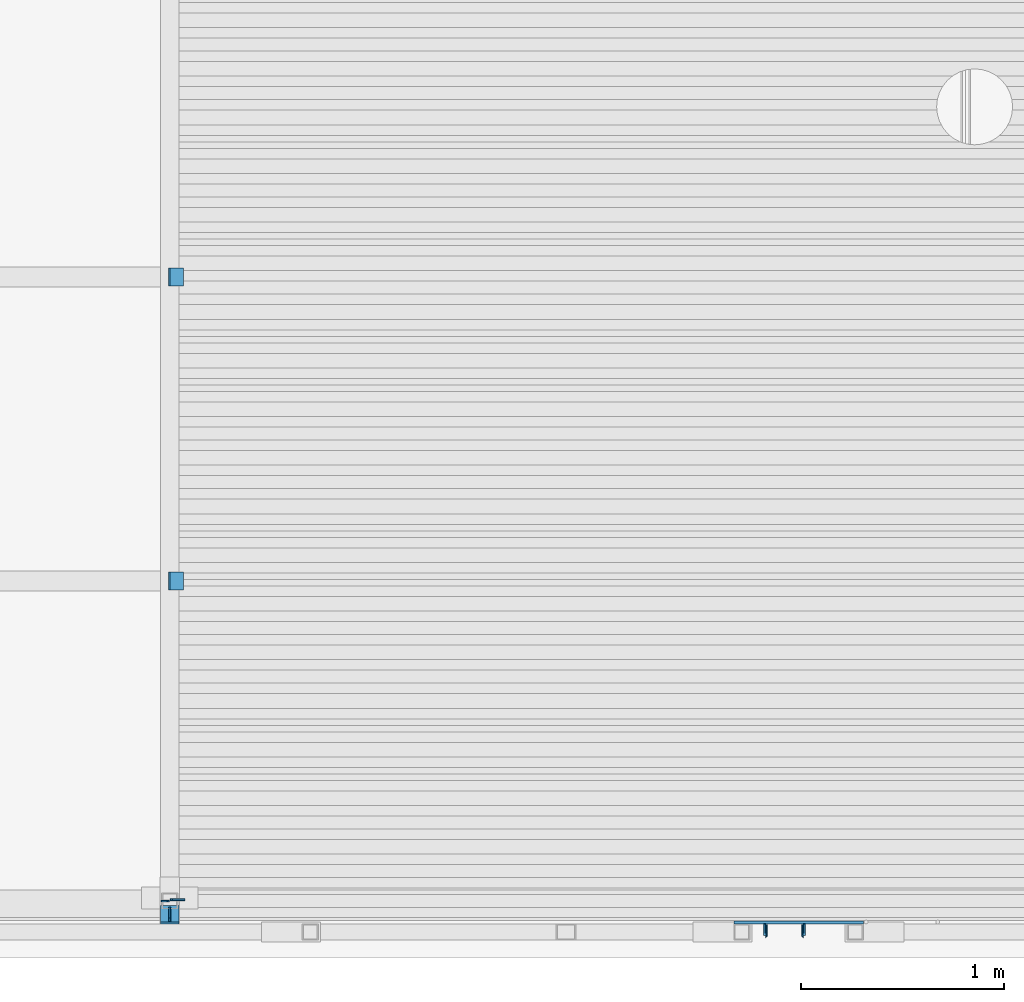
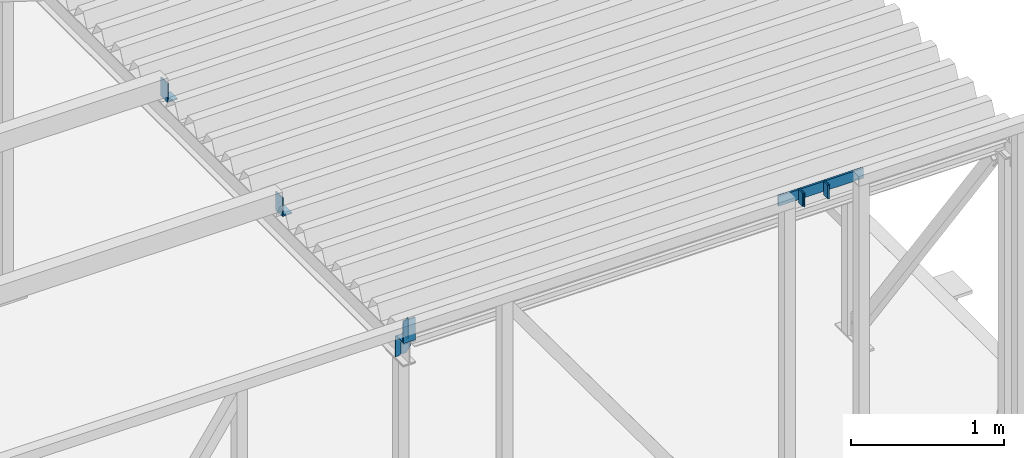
# One storey, part 19 of 30: 11 beams.
"""IFC2X3 building model written with IfcOpenShell, lengths in millimetres."""

import ifcopenshell
import ifcopenshell.guid

model = None  # the IFC model being written
_history = None  # IfcOwnerHistory: only IFC2X3 demands one
_inside = {}  # id of a spatial element -> (the spatial element, [elements in it])
_under = {}  # id of a project, library or spatial element -> (it, [spatial elements below it])
_declared = {}  # id of a project -> (the project, [libraries it declares])
_typed = {}  # id of a type object -> (the type object, [elements of that type])
_made_of = {}  # id of a material, layer set ... -> (it, [elements and type objects made of it])


def new_model(schema):
    """Start an empty IFC model of exactly this schema.

    Asked for "IFC4X3", IfcOpenShell would pick the latest addendum, in which some entities
    have other attributes; the version numbers below select the first issue.
    IFC2X3 requires an IfcOwnerHistory on every rooted entity: one is made here for all.
    """
    global model, _history
    if schema == "IFC4X3":
        model = ifcopenshell.file(schema_version=(4, 3, 0, 0))
    else:
        model = ifcopenshell.file(schema=schema)
    _inside.clear()
    _under.clear()
    _declared.clear()
    _typed.clear()
    _made_of.clear()
    _history = None
    if model.schema == "IFC2X3":
        org = make("IfcOrganization", Name="unknown")
        user = make(
            "IfcPersonAndOrganization",
            ThePerson=make("IfcPerson", FamilyName="unknown"),
            TheOrganization=org,
        )
        app = make(
            "IfcApplication",
            ApplicationDeveloper=org,
            Version="unknown",
            ApplicationFullName="unknown",
            ApplicationIdentifier="unknown",
        )
        _history = make(
            "IfcOwnerHistory",
            OwningUser=user,
            OwningApplication=app,
            ChangeAction="ADDED",
            CreationDate=0,
        )
    return model


def make(cls, **values):
    """One entity of the class cls with the attributes given. An attribute that is None is left unset."""
    return model.create_entity(
        cls, **{name: value for name, value in values.items() if value is not None}
    )


def entity(cls, *values):
    """Any entity or typed value of the class cls, its attributes in the order of the schema. None: left unset."""
    e = model.create_entity(cls)
    for i, value in enumerate(values):
        if value is not None:
            e[i] = value
    return e


def rooted(cls, **values):
    """An entity with a GlobalId (a new one), such as an element, a storey or a relation."""
    return make(cls, GlobalId=ifcopenshell.guid.new(), OwnerHistory=_history, **values)


def si_unit(unit_type, name, prefix=None):
    """IfcSIUnit, for example si_unit("LENGTHUNIT", "METRE", prefix="MILLI")."""
    return make("IfcSIUnit", UnitType=unit_type, Prefix=prefix, Name=name)


def converted_unit(unit_type, name, factor, base, dimensions=None, offset=None):
    """IfcConversionBasedUnit, such as the inch: factor (a typed value) times the base unit."""
    return make(
        "IfcConversionBasedUnit"
        if offset is None
        else "IfcConversionBasedUnitWithOffset",
        ConversionOffset=offset,
        Dimensions=None
        if dimensions is None
        else entity("IfcDimensionalExponents", *dimensions),
        UnitType=unit_type,
        Name=name,
        ConversionFactor=make(
            "IfcMeasureWithUnit", ValueComponent=factor, UnitComponent=base
        ),
    )


def derived_unit(unit_type, elements):
    """IfcDerivedUnit: a product of units, each with its exponent."""
    return make(
        "IfcDerivedUnit",
        Elements=[
            make("IfcDerivedUnitElement", Unit=unit, Exponent=power)
            for unit, power in elements
        ],
        UnitType=unit_type,
    )


def assignment(units):
    """IfcUnitAssignment: the units of a project."""
    return None if units is None else make("IfcUnitAssignment", Units=units)


def point(xyz):
    """IfcCartesianPoint."""
    return None if xyz is None else make("IfcCartesianPoint", Coordinates=xyz)


def direction(xyz):
    """IfcDirection."""
    return None if xyz is None else make("IfcDirection", DirectionRatios=xyz)


def frame(location, z_axis=None, x_axis=None):
    """IfcAxis2Placement3D, a coordinate frame: its origin and axes. An axis left out is left unset."""
    return make(
        "IfcAxis2Placement3D",
        Location=point(location),
        Axis=direction(z_axis),
        RefDirection=direction(x_axis),
    )


def origin_with_axes():
    """The frame at (0, 0, 0) with the z axis (0, 0, 1) and the x axis (1, 0, 0) written out."""
    return frame((0.0, 0.0, 0.0), z_axis=(0.0, 0.0, 1.0), x_axis=(1.0, 0.0, 0.0))


def place(relative_to, where):
    """IfcLocalPlacement: puts the frame where relative to a parent placement (None: the world)."""
    return make(
        "IfcLocalPlacement", PlacementRelTo=relative_to, RelativePlacement=where
    )


def context(
    kind, dimensions, precision=None, world=None, true_north=None, identifier=None
):
    """IfcGeometricRepresentationContext, for example the 3D "Model" context."""
    return make(
        "IfcGeometricRepresentationContext",
        ContextIdentifier=identifier,
        ContextType=kind,
        CoordinateSpaceDimension=dimensions,
        Precision=precision,
        WorldCoordinateSystem=world,
        TrueNorth=true_north,
    )


def subcontext(parent, identifier, kind, view, scale=None):
    """IfcGeometricRepresentationSubContext, for example "Body" below "Model"."""
    return make(
        "IfcGeometricRepresentationSubContext",
        ContextIdentifier=identifier,
        ContextType=kind,
        ParentContext=parent,
        TargetScale=scale,
        TargetView=view,
    )


def project(units=None, contexts=None):
    """IfcProject with its units and contexts."""
    return rooted(
        "IfcProject",
        Name="project",
        RepresentationContexts=contexts,
        UnitsInContext=assignment(units),
    )


def spatial(cls, under=None, at=None, **own):
    """A site, building, storey or space (cls), placed at a placement, below another one or the project."""
    s = rooted(cls, ObjectPlacement=at, **own)
    if under is not None:
        _under.setdefault(under.id(), (under, []))[1].append(s)
    return s


def faces_of(points, faces, orient=None, outer=None):
    """IfcFace entities. A face is a list of loops; a loop is a list of indices into points, from 0.

    orient and outer hold one flag for each loop. By default every Orientation is true, the
    first loop of a face is its IfcFaceOuterBound and the others are IfcFaceBound.
    """
    made = []
    for i, loops in enumerate(faces):
        bounds = []
        for j, loop in enumerate(loops):
            is_outer = j == 0 if outer is None else outer[i][j]
            bounds.append(
                make(
                    "IfcFaceOuterBound" if is_outer else "IfcFaceBound",
                    Bound=make("IfcPolyLoop", Polygon=[points[k] for k in loop]),
                    Orientation=True if orient is None else orient[i][j],
                )
            )
        made.append(make("IfcFace", Bounds=bounds))
    return made


def faceted_brep(points, faces, orient=None, outer=None, voids=None):
    """IfcFacetedBrep: a solid bounded by flat faces; with voids (closed shells), ...WithVoids."""
    shared = [point(p) for p in points]
    hull = make("IfcClosedShell", CfsFaces=faces_of(shared, faces, orient, outer))
    if voids is None:
        return make("IfcFacetedBrep", Outer=hull)
    return make(
        "IfcFacetedBrepWithVoids",
        Outer=hull,
        Voids=[
            make(cls, CfsFaces=faces_of(shared, fs, o, b)) for cls, fs, o, b in voids
        ],
    )


def shape(context_of_items, identifier, shape_type, items):
    """IfcShapeRepresentation: the items that make up one representation, for example the "Body"."""
    return make(
        "IfcShapeRepresentation",
        ContextOfItems=context_of_items,
        RepresentationIdentifier=identifier,
        RepresentationType=shape_type,
        Items=items,
    )


def material(Name=None, Category=None):
    """IfcMaterial."""
    return make("IfcMaterial", Name=Name, Category=Category)


def made_of(thing, what):
    """Note that an element or type object is made of a material, layer set ...; save() writes the relation."""
    if what is not None:
        _made_of.setdefault(what.id(), (what, []))[1].append(thing)
    return thing


def type_object(cls, material=None, **own):
    """A type object (cls), such as IfcWallType, which elements share."""
    return made_of(rooted(cls, **own), material)


def element(
    cls,
    number,
    at=None,
    inside=None,
    cuts=None,
    type_object=None,
    material=None,
    context=None,
    identifier="Body",
    shape_type=None,
    held_by="IfcProductDefinitionShape",
    body=None,
    shapes=None,
    **own,
):
    """One element of the class cls, such as IfcWall. Its Tag is "e" and its number.

    at: its placement. inside: the storey or other place that contains it. cuts: it is an
    opening in that element (IfcRelVoidsElement). A single representation is given by context,
    identifier, shape_type and body (its items); several are given by shapes. held_by: the class
    of the entity that holds the representations. save() writes the other relations.
    """
    e = rooted(cls, Tag="e%d" % number, ObjectPlacement=at, **own)
    if body is not None:
        shapes = [shape(context, identifier, shape_type, body)]
    if shapes is not None:
        e.Representation = make(held_by, Representations=shapes)
    if inside is not None:
        _inside.setdefault(inside.id(), (inside, []))[1].append(e)
    if cuts is not None:
        rooted(
            "IfcRelVoidsElement", RelatingBuildingElement=cuts, RelatedOpeningElement=e
        )
    if type_object is not None:
        _typed.setdefault(type_object.id(), (type_object, []))[1].append(e)
    return made_of(e, material)


def aggregate(whole, parts):
    """IfcRelAggregates: a whole, such as a stair, and the parts it consists of."""
    return rooted("IfcRelAggregates", RelatingObject=whole, RelatedObjects=parts)


def save(model, path):
    """Write the relations noted so far, then the file.

    IfcRelAggregates (storeys below a building ...), IfcRelContainedInSpatialStructure (elements
    in a storey), IfcRelDefinesByType, IfcRelAssociatesMaterial and IfcRelDeclares: one each for
    every whole, place, type object, material and project.
    """
    for whole, parts in _under.values():
        aggregate(whole, parts)
    for where, things in _inside.values():
        rooted(
            "IfcRelContainedInSpatialStructure",
            RelatedElements=things,
            RelatingStructure=where,
        )
    for kind, things in _typed.values():
        rooted("IfcRelDefinesByType", RelatedObjects=things, RelatingType=kind)
    for what, things in _made_of.values():
        rooted("IfcRelAssociatesMaterial", RelatedObjects=things, RelatingMaterial=what)
    for by, libraries in _declared.values():
        rooted("IfcRelDeclares", RelatingContext=by, RelatedDefinitions=libraries)
    model.write(path)


model = new_model("IFC2X3")

# Units and contexts
model_context = context("Model", 3, precision=0.01, world=frame((0.0, 4.29681676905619e-09, 0.0)), true_north=direction((4.01073788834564e-13, 1.0)))
plan_context = context("Plan", 3, precision=0.01, world=frame((0.0, 4.29681676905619e-09, 0.0)), true_north=direction((4.01073788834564e-13, 1.0)))
body_context = subcontext(model_context, "Body", "Model", "MODEL_VIEW")
ifc_project = project(units=[converted_unit("PLANEANGLEUNIT", "DEGREE", entity("IfcPositiveLengthMeasure", 0.0174532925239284), si_unit("PLANEANGLEUNIT", "RADIAN"), dimensions=[0, 0, 0, 0, 0, 0, 0]), si_unit("AREAUNIT", "SQUARE_METRE"), si_unit("LENGTHUNIT", "METRE", prefix="MILLI"), si_unit("MASSUNIT", "GRAM", prefix="KILO"), si_unit("POWERUNIT", "WATT"), si_unit("PRESSUREUNIT", "PASCAL"), si_unit("FORCEUNIT", "NEWTON", prefix="KILO"), si_unit("ELECTRICVOLTAGEUNIT", "VOLT"), si_unit("ELECTRICCURRENTUNIT", "AMPERE"), si_unit("THERMODYNAMICTEMPERATUREUNIT", "DEGREE_CELSIUS"), si_unit("TIMEUNIT", "SECOND"), si_unit("VOLUMEUNIT", "CUBIC_METRE"), derived_unit("LINEARVELOCITYUNIT", [(si_unit("LENGTHUNIT", "METRE"), 1), (si_unit("TIMEUNIT", "SECOND"), -1)]), derived_unit("VOLUMETRICFLOWRATEUNIT", [(si_unit("VOLUMEUNIT", "CUBIC_METRE"), 1), (si_unit("TIMEUNIT", "SECOND"), -1)]), derived_unit("THERMALTRANSMITTANCEUNIT", [(si_unit("POWERUNIT", "WATT"), 1), (si_unit("THERMODYNAMICTEMPERATUREUNIT", "KELVIN"), -1), (si_unit("AREAUNIT", "SQUARE_METRE"), -1)]), derived_unit("SOUNDPRESSUREUNIT", [(si_unit("PRESSUREUNIT", "PASCAL"), 1)])], contexts=[model_context, plan_context])

# Site, building, storey
site_placement = place(None, frame((0.0, -4.29681676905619e-09, 0.0), z_axis=(0.0, 0.0, 1.0), x_axis=(1.0, 0.0, 0.0)))
site = spatial("IfcSite", under=ifc_project, at=site_placement, Name="Gardermoen", CompositionType="ELEMENT")
building_placement = place(site_placement, frame((0.0, 4.29681676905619e-09, 0.0), z_axis=(0.0, 0.0, 1.0), x_axis=(1.0, 0.0, 0.0)))
building = spatial("IfcBuilding", under=site, at=building_placement, Name="TI", CompositionType="ELEMENT")
storey_placement = place(building_placement, origin_with_axes())
storey = spatial("IfcBuildingStorey", under=building, at=storey_placement, Name="F", CompositionType="ELEMENT", Elevation=0.0)

# Beams
ifc_material_1 = material(Name="STEEL/S355")
beam_type_1 = type_object("IfcBeamType", Name="FL80*15", PredefinedType="NOTDEFINED")
beam_1_placement = place(storey_placement, frame((610159.992392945, 689175.00260355, 213845.000686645), z_axis=(0.0, 0.0, 1.0), x_axis=(-0.999999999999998, 5.80000057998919e-08, 0.0)))
element("IfcBeam", 1, at=beam_1_placement, inside=storey, type_object=beam_type_1, material=ifc_material_1, Name="STÅLBJELKE", ObjectType="FL80*15", context=body_context, shape_type="Brep", body=[
    faceted_brep([(0.0, 7.50000000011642, -40.0), (0.0, 7.50000000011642, 40.0), (639.98478582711, 7.50000002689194, 40.0), (639.98478582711, 7.50000002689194, -40.0), (-2.3283064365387e-10, -7.50000000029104, 40.0), (639.984785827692, -7.49999997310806, 40.0), (-2.3283064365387e-10, -7.50000000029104, -40.0), (639.984785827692, -7.49999997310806, -40.0)], [[[0, 1, 2, 3]], [[1, 4, 5, 2]], [[4, 6, 7, 5]], [[6, 0, 3, 7]], [[5, 7, 3, 2]], [[6, 4, 1, 0]]]),
])
beam_type_2 = type_object("IfcBeamType", Name="PL8*72", PredefinedType="NOTDEFINED")
beam_2_placement = place(storey_placement, frame((606736.332297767, 689249.864047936, 213709.996723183), z_axis=(1.15999951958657e-07, 3.85920001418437e-05, 0.999999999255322), x_axis=(-9.30003329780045e-08, -0.999999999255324, 3.85920001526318e-05)))
element("IfcBeam", 2, at=beam_2_placement, inside=storey, type_object=beam_type_2, material=ifc_material_1, Name="STÅLBJELKE", ObjectType="PL8*72", context=body_context, shape_type="Brep", body=[
    faceted_brep([(-5.82076609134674e-11, -3.99999999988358, 0.0), (-0.0014642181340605, -4.00000000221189, 46.9977416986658), (-0.00146421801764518, 3.99999999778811, 46.9977416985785), (-5.82076609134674e-11, 4.00000000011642, -5.82076609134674e-11), (0.00220701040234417, -4.00000000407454, 81.9979400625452), (0.00220701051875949, 3.99999999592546, 81.9979400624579), (52.3548812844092, -4.00000000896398, 163.997970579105), (52.3548812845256, 3.99999999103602, 163.997970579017), (72.3548812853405, -4.00000000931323, 163.999999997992), (72.3548812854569, 3.99999999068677, 163.999999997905), (72.3596884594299, -4.0000000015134, 9.99999999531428), (72.3596884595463, 3.9999999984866, 9.99999999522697), (62.3600006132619, -4.00000000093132, 2.91038304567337e-10), (62.3600006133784, 3.99999999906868, 2.03726813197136e-10)], [[[0, 1, 2, 3]], [[1, 4, 5, 2]], [[4, 6, 7, 5]], [[6, 8, 9, 7]], [[8, 10, 11, 9]], [[10, 12, 13, 11]], [[12, 0, 3, 13]], [[5, 7, 9, 11, 13, 3, 2]], [[12, 10, 8, 6, 4, 1, 0]]]),
])
beam_3_placement = place(storey_placement, frame((606778.973754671, 689286.342312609, 213527.999699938), z_axis=(0.0, 0.0, 1.0), x_axis=(-0.999999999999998, 5.80000057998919e-08, 0.0)))
element("IfcBeam", 3, at=beam_3_placement, inside=storey, type_object=beam_type_2, material=ifc_material_1, Name="STÅLBJELKE", ObjectType="PL8*72", context=body_context, shape_type="Brep", body=[
    faceted_brep([(-5.82076609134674e-11, -3.99999999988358, 0.0), (-32.3599967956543, -4.0, 47.0), (-32.3599967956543, 4.0, 47.0), (-5.82076609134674e-11, 4.00000000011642, -5.82076609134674e-11), (-32.3599967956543, -4.0, 157.000198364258), (-32.3599967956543, 4.0, 157.000198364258), (2.3283064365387e-10, -3.99999999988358, 164.0), (-2.3283064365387e-10, 4.00000000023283, 164.0), (30.0000000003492, -3.99999999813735, 164.0), (29.9999999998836, 4.00000000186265, 164.0), (40.0000000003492, -3.99999999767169, 154.0), (40.0, 4.00000000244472, 154.0), (40.0, -4.00000000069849, 10.0), (40.0000000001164, 3.99999999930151, 10.0), (30.0000000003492, -3.99999999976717, 0.0), (30.0000000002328, 4.00000000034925, 1.16415321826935e-10)], [[[0, 1, 2, 3]], [[1, 4, 5, 2]], [[4, 6, 7, 5]], [[6, 8, 9, 7]], [[8, 10, 11, 9]], [[10, 12, 13, 11]], [[12, 14, 15, 13]], [[14, 0, 3, 15]], [[5, 7, 9, 11, 13, 15, 3, 2]], [[14, 12, 10, 8, 6, 4, 1, 0]]]),
])
beam_type_3 = type_object("IfcBeamType", Name="L180*90*10", PredefinedType="NOTDEFINED")
beam_4_placement = place(storey_placement, frame((606781.830790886, 689212.502531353, 213789.999618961), z_axis=(0.0, 0.0, 1.0), x_axis=(-0.999999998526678, -5.42830000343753e-05, 0.0)))
element("IfcBeam", 4, at=beam_4_placement, inside=storey, type_object=beam_type_3, material=ifc_material_1, Name="STÅLBJELKE", ObjectType="L180*90*10", context=body_context, shape_type="Brep", body=[
    faceted_brep([(2.09547579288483e-09, 44.9999999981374, -90.0), (2.09547579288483e-09, 44.9999999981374, 90.0), (90.9996628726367, 44.9999999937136, 90.0), (90.9996628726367, 44.9999999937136, -90.0), (1.62981450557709e-09, 34.9999999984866, 90.0), (90.999662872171, 34.9999999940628, 90.0), (-2.3283064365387e-10, 35.0000000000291, -80.000000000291), (90.999662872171, 34.9999999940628, -80.0), (-2.3283064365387e-09, -44.9999999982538, -80.0), (90.9996628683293, -45.0000000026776, -80.0), (-2.3283064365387e-09, -44.9999999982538, -90.0), (90.9996628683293, -45.0000000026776, -90.0)], [[[0, 1, 2, 3]], [[1, 4, 5, 2]], [[4, 6, 7, 5]], [[6, 8, 9, 7]], [[8, 10, 11, 9]], [[10, 0, 3, 11]], [[5, 7, 9, 11, 3, 2]], [[10, 8, 6, 4, 1, 0]]]),
])
ifc_material_2 = material(Name="STEEL/S355J0")
beam_type_4 = type_object("IfcBeamType", Name="PL8*40", PredefinedType="NOTDEFINED")
beam_5_placement = place(storey_placement, frame((606693.680583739, 689280.004957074, 213527.999847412), z_axis=(9.81579360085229e-08, -1.56462793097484e-13, 0.999999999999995), x_axis=(0.999999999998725, -1.59399025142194e-06, -9.81579360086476e-08)))
element("IfcBeam", 5, at=beam_5_placement, inside=storey, type_object=beam_type_4, material=ifc_material_2, Name="STÅLBJELKE", ObjectType="PL8*40", context=body_context, shape_type="Brep", body=[
    faceted_brep([(-5.82076609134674e-11, -3.99999999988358, 0.0), (2.3283064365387e-10, -3.99999999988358, 164.0), (-2.3283064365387e-10, 4.00000000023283, 164.0), (-5.82076609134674e-11, 4.00000000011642, -5.82076609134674e-11), (30.0000000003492, -3.99999999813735, 164.0), (29.9999999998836, 4.00000000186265, 164.0), (40.0000000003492, -3.99999999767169, 154.0), (40.0, 4.00000000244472, 154.0), (40.0, -4.00000000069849, 10.0), (40.0000000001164, 3.99999999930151, 10.0), (30.0000000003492, -3.99999999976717, 0.0), (30.0000000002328, 4.00000000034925, 1.16415321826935e-10)], [[[0, 1, 2, 3]], [[1, 4, 5, 2]], [[4, 6, 7, 5]], [[6, 8, 9, 7]], [[8, 10, 11, 9]], [[10, 0, 3, 11]], [[5, 7, 9, 11, 3, 2]], [[10, 8, 6, 4, 1, 0]]]),
])
beam_type_5 = type_object("IfcBeamType", Name="L150*75*9", PredefinedType="NOTDEFINED")
for number, where, z_axis, x_axis in (
    (6, (606766.417591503, 692314.996993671, 213774.999618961), (0.0, 0.0, 1.0), (4.51129998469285e-05, 0.999999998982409, 0.0)),
    (7, (606766.417591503, 690814.996993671, 213774.999618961), (0.0, 0.0, 1.0), (4.51129998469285e-05, 0.999999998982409, 0.0)),
):
    element("IfcBeam", number, at=place(storey_placement, frame(where, z_axis=z_axis, x_axis=x_axis)), inside=storey, type_object=beam_type_5, material=ifc_material_1, Name="STÅLBJELKE", ObjectType="L150*75*9", context=body_context, shape_type="Brep", body=[
        faceted_brep([(0.0, 37.4999999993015, -74.9999999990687), (0.0, 37.5000000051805, 74.9999999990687), (90.0038459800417, 37.499999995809, 75.0), (90.0038459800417, 37.499999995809, -75.0), (1.04773789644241e-09, 28.4999999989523, 75.0), (90.0038459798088, 28.4999999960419, 75.0), (1.04773789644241e-09, 28.4999999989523, -66.0), (90.0038459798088, 28.4999999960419, -66.0), (-1.16415321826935e-09, -37.4999999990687, -66.0), (90.0038459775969, -37.5000000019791, -66.0), (0.0, -37.5000000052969, -74.9999999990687), (90.0038459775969, -37.5000000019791, -75.0)], [[[0, 1, 2, 3]], [[1, 4, 5, 2]], [[4, 6, 7, 5]], [[6, 8, 9, 7]], [[8, 10, 11, 9]], [[10, 0, 3, 11]], [[5, 7, 9, 11, 3, 2]], [[10, 8, 6, 4, 1, 0]]]),
    ])
beam_type_6 = type_object("IfcBeamType", Name="PL8*64", PredefinedType="NOTDEFINED")
beam_6_placement = place(storey_placement, frame((609859.607607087, 689162.502606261, 213892.000686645), z_axis=(0.0, -1.0, 0.0), x_axis=(0.0, 0.0, -1.0)))
element("IfcBeam", 8, at=beam_6_placement, inside=storey, type_object=beam_type_6, material=ifc_material_1, Name="STÅLBJELKE", ObjectType="PL8*64", context=body_context, shape_type="Brep", body=[
    faceted_brep([(107.5, 4.0, 63.7799987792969), (0.0, 4.0, 63.7798004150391), (0.0, -4.0, 55.7798020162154), (107.5, -4.0, 55.7798020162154), (107.5, -4.0, 0.0), (-5.82076609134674e-11, -3.99999999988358, 0.0), (-5.82076609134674e-11, 4.00000000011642, -5.82076609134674e-11), (107.5, 4.0, 0.0)], [[[0, 1, 2, 3]], [[4, 5, 6, 7]], [[4, 7, 0, 3]], [[5, 4, 3, 2]], [[6, 5, 2, 1]], [[7, 6, 1, 0]]]),
])
beam_7_placement = place(storey_placement, frame((609680.892392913, 689162.502606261, 213892.000686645), z_axis=(0.0, -1.0, 0.0), x_axis=(0.0, 0.0, -1.0)))
element("IfcBeam", 9, at=beam_7_placement, inside=storey, type_object=beam_type_6, material=ifc_material_1, Name="STÅLBJELKE", ObjectType="PL8*64", context=body_context, shape_type="Brep", body=[
    faceted_brep([(107.5, -4.0, 63.7799987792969), (107.5, 4.0, 55.7798020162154), (0.0, 4.0, 55.7798020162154), (0.0, -4.0, 63.7798004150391), (107.5, -4.0, 0.0), (-5.82076609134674e-11, -3.99999999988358, 0.0), (-5.82076609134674e-11, 4.00000000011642, -5.82076609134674e-11), (107.5, 4.0, 0.0)], [[[0, 1, 2, 3]], [[4, 5, 6, 7]], [[5, 4, 0, 3]], [[6, 5, 3, 2]], [[7, 6, 2, 1]], [[4, 7, 1, 0]]]),
])
beam_type_7 = type_object("IfcBeamType", Name="PL8*56", PredefinedType="NOTDEFINED")
for number, where, z_axis, x_axis in (
    (10, (609867.607607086, 689117.722606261, 213892.000686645), (0.0, 0.0, -1.0), (0.0, 1.0, 0.0)),
    (11, (609672.892392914, 689117.722606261, 213892.000686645), (0.0, 0.0, -1.0), (0.0, 1.0, 0.0)),
):
    element("IfcBeam", number, at=place(storey_placement, frame(where, z_axis=z_axis, x_axis=x_axis)), inside=storey, type_object=beam_type_7, material=ifc_material_1, Name="STÅLBJELKE", ObjectType="PL8*56", context=body_context, shape_type="Brep", body=[
        faceted_brep([(-5.82076609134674e-11, -3.99999999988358, 0.0), (-5.99979972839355, -4.0, 0.0), (-5.99979972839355, 4.0, 0.0), (-5.82076609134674e-11, 4.00000000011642, -5.82076609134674e-11), (-5.99979972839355, -4.0, 107.5), (-5.99979972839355, 4.0, 107.5), (-1.90688297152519e-07, -4.0, 107.5), (-1.90688297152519e-07, 4.0, 107.5), (49.7799987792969, -4.0, 107.5), (49.7799987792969, 4.0, 107.5), (49.7799987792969, -4.0, 0.0), (49.7799987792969, 4.0, 0.0)], [[[0, 1, 2, 3]], [[1, 4, 5, 2]], [[4, 6, 7, 5]], [[6, 8, 9, 7]], [[8, 10, 11, 9]], [[10, 0, 3, 11]], [[5, 7, 9, 11, 3, 2]], [[10, 8, 6, 4, 1, 0]]]),
    ])

save(model, "model.ifc")
